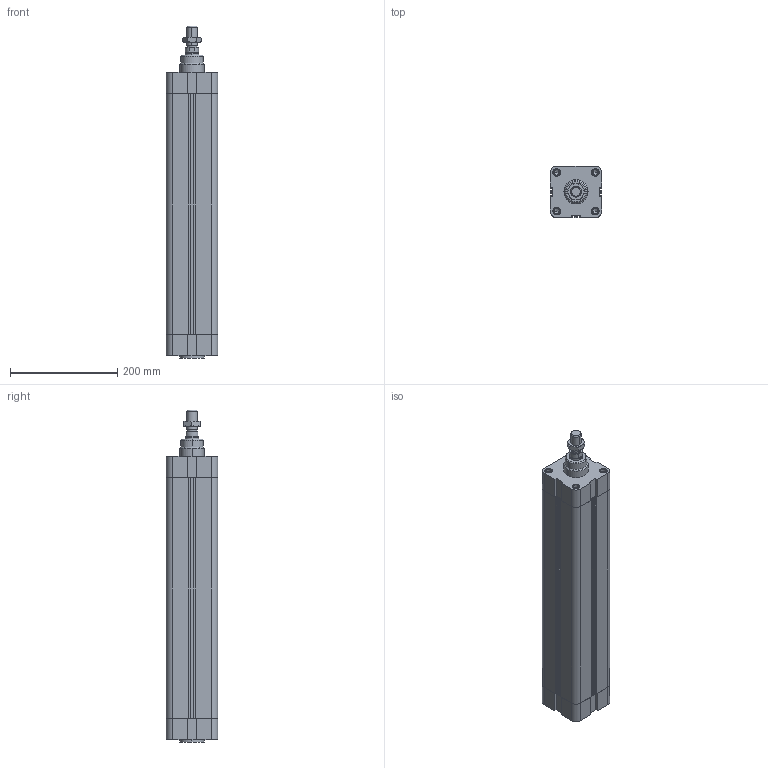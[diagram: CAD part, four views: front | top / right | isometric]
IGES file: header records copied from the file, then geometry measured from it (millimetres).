
Global section: file name: No Iges File Name specified; native system: Autodesk Inventor 2010; preprocessor: AutoDesk Inventor Iges Exporter R2010; author: rivolro1; date: 20090707.103451; units: millimetre
Bounding box: 95.5 x 95.5 x 618 mm (x, y, z)
Volume: 2900496.1 mm3; surface area: 465821.1 mm2
Topology: 5 solids, 5 shells, 290 faces, 694 edges, 440 vertices
Faces by surface type: plane 120, bspline 74, cylinder 40, revolution 34, cone 20, torus 2
